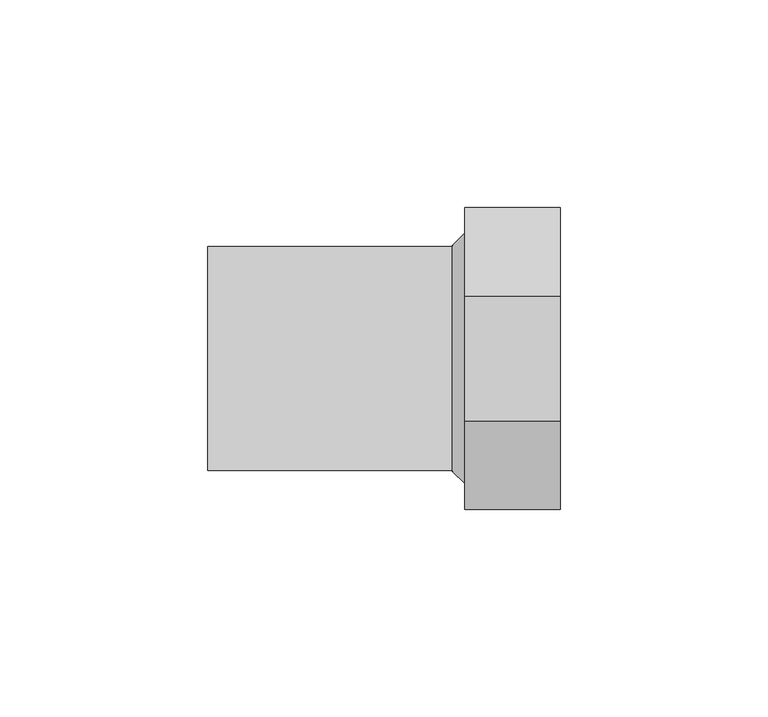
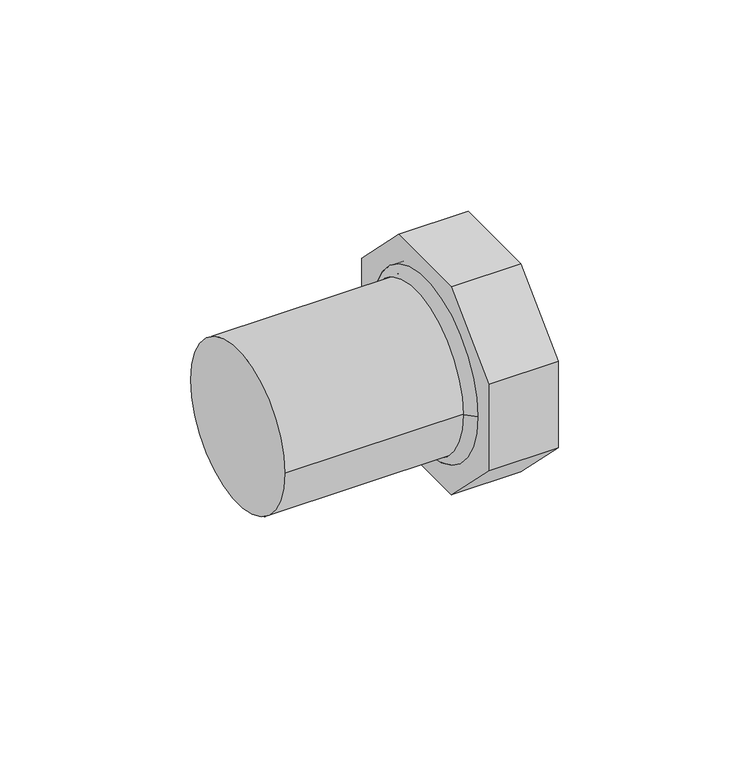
"""IFC4 building model written with IfcOpenShell, lengths in millimetres: pipe fitting geometry."""

from ifc_helpers import new_model, si_unit, point, frame, origin, origin_2d, place, context, project, spatial, polyline, circle_curve, trimmed, segment, composite_curve, outline, extrude, source, transform, mapped, element, save
from ifc_brep_helpers import plane_surface, revolved_surface, advanced_brep


def pipe_fitting_85bc535a(model_context):
    return source(origin(), model_context, "Body", "SolidModel", [
        advanced_brep(
        [(36.0, 36.3942695, 15.075), (36.0, 15.075, 36.3942695), (36.0, -15.075, 36.3942695), (36.0, -36.3942695, 15.075), (36.0, -36.3942695, -15.075), (36.0, -15.075, -36.3942695), (36.0, 15.075, -36.3942695), (36.0, 36.3942695, -15.075), (36.0, -30.15, 0.0), (36.0, 30.15, 0.0), (13.0, 36.3942695, 15.075), (13.0, 36.3942695, -15.075), (13.0, 15.075, -36.3942695), (13.0, -15.075, -36.3942695), (13.0, -36.3942695, -15.075), (13.0, -36.3942695, 15.075), (13.0, -15.075, 36.3942695), (13.0, 15.075, 36.3942695), (13.0, -30.1788231, 0.0), (13.0, 30.1788231, 0.0), (13.0, -30.15, 0.0), (13.0, 30.15, 0.0), (13.0, -27.1788231, 0.0), (13.0, 27.1788231, 0.0), (10.0, -27.1788231, 0.0), (10.0, 27.1788231, 0.0)],
        [
            (0, 1),
            (1, 2),
            (2, 3),
            (3, 4),
            (4, 5),
            (5, 6),
            (6, 7),
            (7, 0),
            (8, 9, circle_curve(frame((36.0, 0.0, 0.0), z_axis=(-1.0, 0.0, 0.0), x_axis=(0.0, 1.0, 0.0)), 30.15)),
            (9, 8, circle_curve(frame((36.0, 0.0, 0.0), z_axis=(-1.0, 0.0, 0.0), x_axis=(0.0, 1.0, 0.0)), 30.15)),
            (10, 11),
            (11, 12),
            (12, 13),
            (13, 14),
            (14, 15),
            (15, 16),
            (16, 17),
            (17, 10),
            (18, 19, circle_curve(frame((13.0, 0.0, 0.0), z_axis=(1.0, 0.0, 0.0), x_axis=(0.0, 1.0, 0.0)), 30.1788231)),
            (19, 18, circle_curve(frame((13.0, 0.0, 0.0), z_axis=(1.0, 0.0, 0.0), x_axis=(0.0, -1.0, 0.0)), 30.1788231)),
            (8, 20),
            (20, 21, circle_curve(frame((13.0, 0.0, 0.0), z_axis=(-1.0, 0.0, 0.0), x_axis=(0.0, 1.0, 0.0)), 30.15)),
            (21, 9),
            (21, 20, circle_curve(frame((13.0, 0.0, 0.0), z_axis=(-1.0, 0.0, 0.0), x_axis=(0.0, 1.0, 0.0)), 30.15)),
            (0, 10),
            (17, 1),
            (16, 2),
            (15, 3),
            (14, 4),
            (13, 5),
            (12, 6),
            (11, 7),
            (22, 23, circle_curve(frame((13.0, 0.0, 0.0), z_axis=(-1.0, 0.0, 0.0), x_axis=(0.0, -1.0, 0.0)), 27.1788231)),
            (23, 22, circle_curve(frame((13.0, 0.0, 0.0), z_axis=(-1.0, 0.0, 0.0), x_axis=(0.0, 1.0, 0.0)), 27.1788231)),
            (24, 25, circle_curve(frame((10.0, 0.0, 0.0), z_axis=(1.0, 0.0, 0.0), x_axis=(0.0, 1.0, 0.0)), 27.1788231)),
            (25, 19),
            (18, 24),
            (23, 25),
            (24, 22),
            (25, 24, circle_curve(frame((10.0, 0.0, 0.0), z_axis=(1.0, 0.0, 0.0), x_axis=(0.0, -1.0, 0.0)), 27.1788231)),
        ],
        [
            plane_surface(frame((36.0, 30.15, 0.0), z_axis=(1.0, 0.0, 0.0), x_axis=(0.0, 0.0, -1.0))),
            plane_surface(frame((13.0, 30.15, 0.0), z_axis=(-1.0, 0.0, 0.0), x_axis=(0.0, 0.0, 1.0))),
            revolved_surface(polyline([(13.0, 30.15, 0.0), (36.0, 30.15, 0.0)]), (13.0, 0.0, 0.0), (-1.0, 0.0, 0.0)),
            plane_surface(frame((36.0, 36.3942695, 15.075), z_axis=(0.0, 0.7071067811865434, 0.7071067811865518), x_axis=(-1.0, 0.0, 0.0))),
            plane_surface(frame((36.0, 15.075, 36.3942695), z_axis=(0.0, 0.0, 1.0), x_axis=(-1.0, 0.0, 0.0))),
            plane_surface(frame((36.0, -15.075, 36.3942695), z_axis=(0.0, -0.7071067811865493, 0.7071067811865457), x_axis=(-1.0, 0.0, 0.0))),
            plane_surface(frame((36.0, -36.3942695, 15.075), z_axis=(0.0, -1.0, 0.0), x_axis=(-1.0, 0.0, 0.0))),
            plane_surface(frame((36.0, -36.3942695, -15.075), z_axis=(0.0, -0.7071067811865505, -0.7071067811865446), x_axis=(-1.0, 0.0, 0.0))),
            plane_surface(frame((36.0, -15.075, -36.3942695), z_axis=(0.0, 0.0, -1.0), x_axis=(-1.0, 0.0, 0.0))),
            plane_surface(frame((36.0, 15.075, -36.3942695), z_axis=(0.0, 0.7071067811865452, -0.7071067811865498), x_axis=(-1.0, 0.0, 0.0))),
            plane_surface(frame((36.0, 36.3942695, -15.075), z_axis=(0.0, 1.0, 0.0), x_axis=(-1.0, 0.0, 0.0))),
            plane_surface(frame((13.0, 0.0, 0.0), z_axis=(1.0, 0.0, 0.0), x_axis=(0.0, -1.0, 0.0))),
            revolved_surface(polyline([(13.0, 30.1788231, 0.0), (10.0, 27.1788231, 0.0)]), (13.0, 0.0, 0.0), (-1.0, 0.0, 0.0)),
            revolved_surface(polyline([(10.0, 27.1788231, 0.0), (13.0, 27.1788231, 0.0)]), (13.0, 0.0, 0.0), (-1.0, 0.0, 0.0)),
            revolved_surface(polyline([(13.0, -30.1788231, 0.0), (10.0, -27.1788231, 0.0)]), (13.0, 0.0, 0.0), (-1.0, 0.0, 0.0)),
            revolved_surface(polyline([(10.0, -27.1788231, 0.0), (13.0, -27.1788231, 0.0)]), (13.0, 0.0, 0.0), (-1.0, 0.0, 0.0)),
        ],
        [
            (0, [[1, 2, 3, 4, 5, 6, 7, 8], [9, 10]]),
            (1, [[11, 12, 13, 14, 15, 16, 17, 18], [19, 20]]),
            (2, [[-9, 21, 22, 23]]),
            (2, [[-10, -23, 24, -21]]),
            (3, [[-1, 25, -18, 26]]),
            (4, [[-2, -26, -17, 27]]),
            (5, [[-3, -27, -16, 28]]),
            (6, [[-4, -28, -15, 29]]),
            (7, [[-5, -29, -14, 30]]),
            (8, [[-6, -30, -13, 31]]),
            (9, [[-7, -31, -12, 32]]),
            (10, [[-8, -32, -11, -25]]),
            (11, [[-22, -24], [33, 34]]),
            (12, [[35, 36, -19, 37]]),
            (13, [[-34, 38, -35, 39]]),
            (14, [[-36, 40, -37, -20]]),
            (15, [[-33, -39, -40, -38]]),
        ],
    ),
        extrude(outline(composite_curve([segment(trimmed(circle_curve(origin_2d(), 27.0), [point((-27.0, 0.0))], [point((27.0, 0.0))], False, "CARTESIAN"), True, "CONTINUOUS"), segment(trimmed(circle_curve(origin_2d(), 27.0), [point((27.0, 0.0))], [point((-27.0, 0.0))], False, "CARTESIAN"), True, "CONTINUOUS")], self_intersect=False)), frame((-49.0, 0.0, 0.0), z_axis=(1.0, 0.0, 0.0), x_axis=(0.0, 1.0, 0.0)), (0.0, 0.0, 1.0), 62.0),
    ])


if __name__ == "__main__":
    model = new_model("IFC4")
    model_context = context("Model", 3, world=origin())
    ifc_project = project(units=[si_unit("LENGTHUNIT", "METRE", prefix="MILLI")], contexts=[model_context])
    site = spatial("IfcSite", under=ifc_project)
    building = spatial("IfcBuilding", under=site)
    placement = place(None, origin())
    pipe_fitting_shape = pipe_fitting_85bc535a(model_context)
    element("IfcPipeFitting", 1, ObjectType="NLRS_50_PIF_UN_Mapress koper overgang met binnendraad en insteekeinde_geb : DN12-50-Rp2\" / d15-54-Rp2\"", at=placement, inside=building, context=model_context, shape_type="MappedRepresentation", body=[
        mapped(pipe_fitting_shape, transform((0.0, 0.0, 0.0), x_axis=(1.0, 0.0, 0.0), y_axis=(0.0, 1.0, 0.0), z_axis=(0.0, 0.0, 1.0))),
    ])
    save(model, "model.ifc")
